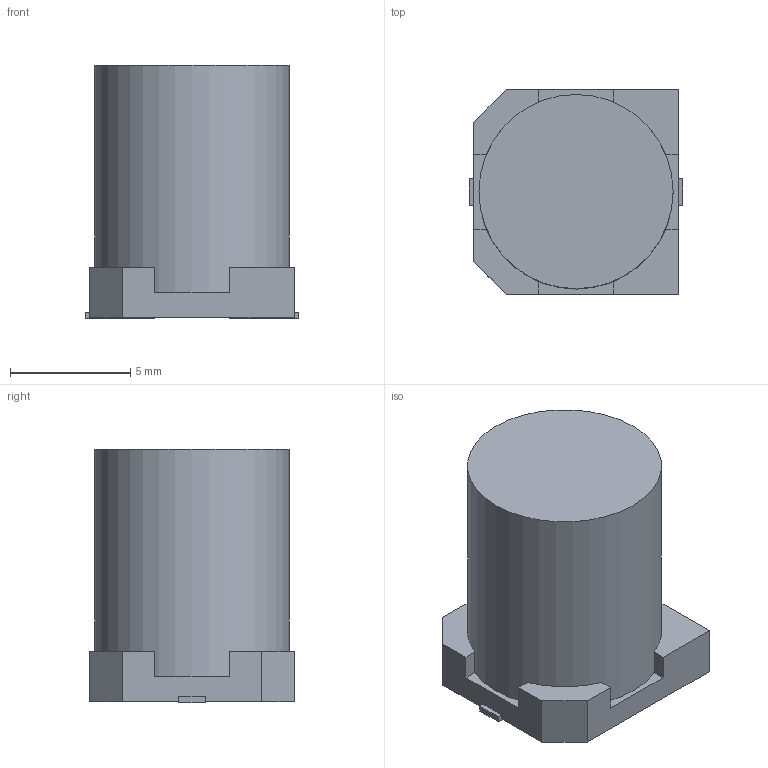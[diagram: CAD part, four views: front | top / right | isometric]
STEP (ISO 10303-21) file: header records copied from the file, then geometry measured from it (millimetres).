
FILE_DESCRIPTION(('STEP AP214'),'1');
FILE_NAME('CAP_J-V_8X10P5_RUB','2023-03-08T16:40:45',(''),(''),'','','');
FILE_SCHEMA(('AUTOMOTIVE_DESIGN'));
Length unit declared in the file: millimetre
Products named in the file (1): product
Bounding box: 8.89 x 8.51 x 10.54 mm (x, y, z)
Volume: 574.5 mm3; surface area: 570.5 mm2
Topology: 4 solids, 4 shells, 47 faces, 109 edges, 70 vertices
Faces by surface type: plane 42, cylinder 5
Full cylindrical faces by diameter (mm): 8.078 x1
Entity records: 1287 total; most frequent: DIRECTION 216, ORIENTED_EDGE 216, CARTESIAN_POINT 123, EDGE_CURVE 108, LINE 98, VECTOR 98, VERTEX_POINT 70, AXIS2_PLACEMENT_3D 59
